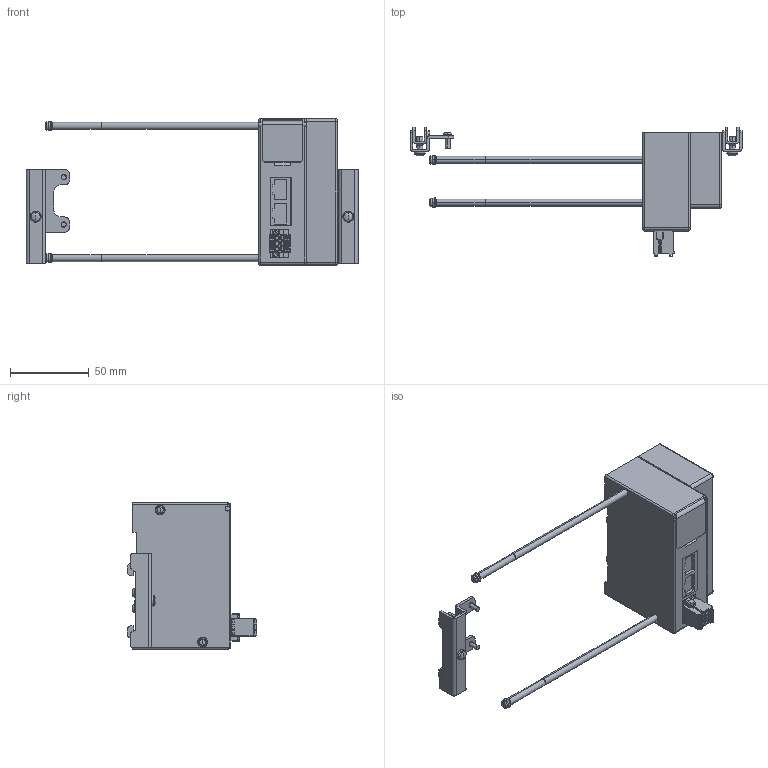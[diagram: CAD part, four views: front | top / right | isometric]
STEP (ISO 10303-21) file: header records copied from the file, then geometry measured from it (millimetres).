
FILE_DESCRIPTION( (''), '2;1');
FILE_NAME ('YS8EK3-6-DN.stp','2022-12-01T14:39:16',(''),(''),'spGate 12.6.6','','');
FILE_SCHEMA (('AUTOMOTIVE_DESIGN'));
Length unit declared in the file: millimetre
Products named in the file (3): Assembly; YS8EK3-6-DN-prt0; YS8EK3-6-DN-prt1
Assembly tree (3 placements, depth 2):
  Assembly
    YS8EK3-6-DN-prt0
    YS8EK3-6-DN-prt1  x2
Bounding box: 211 x 82.1 x 93 mm (x, y, z)
Volume: 267902.9 mm3; surface area: 48885.6 mm2
Topology: 3 solids, 3 shells, 979 faces, 2557 edges, 1637 vertices
Faces by surface type: plane 563, cylinder 310, bspline 90, sphere 16
Entity records: 44330 total; most frequent: CARTESIAN_POINT 6137, ORIENTED_EDGE 4392, DIRECTION 4140, COLOUR_RGB 3046, PRESENTATION_STYLE_ASSIGNMENT 3046, STYLED_ITEM 3046, EDGE_CURVE 2196, DRAUGHTING_PRE_DEFINED_CURVE_FONT 2196
